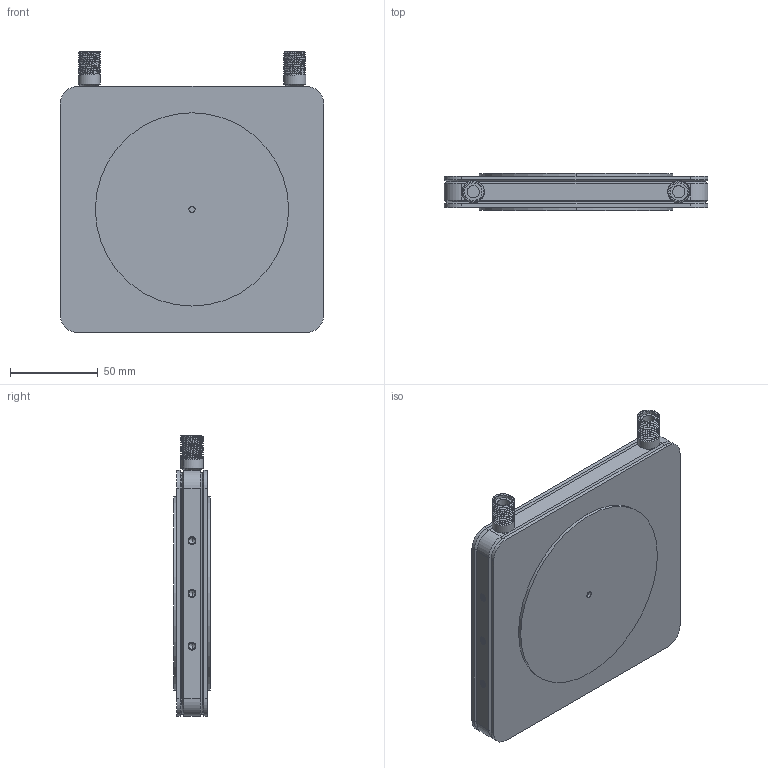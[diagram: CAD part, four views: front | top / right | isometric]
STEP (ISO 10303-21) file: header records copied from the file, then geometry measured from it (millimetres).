
FILE_DESCRIPTION (( 'STEP AP214' ), '1' );
FILE_NAME ('迓鑰110_摎蓲瀇僔蠂罻.STEP', '2025-08-06T15:18:11', ( '' ), ( '' ), 'SwSTEP 2.0', 'SolidWorks 2024', '' );
FILE_SCHEMA (( 'AUTOMOTIVE_DESIGN' ));
Length unit declared in the file: millimetre
Products named in the file (4): кастомный_ниппель; корпус; крышка верхняя; НОЖ_110_без_пластика
Assembly tree (5 placements, depth 2):
  НОЖ_110_без_пластика
    корпус
    кастомный_ниппель  x2
    крышка верхняя  x2
Bounding box: 150 x 21 x 159.85 mm (x, y, z)
Volume: 307946.8 mm3; surface area: 171132.9 mm2
Topology: 5 solids, 5 shells, 1150 faces, 3154 edges, 2028 vertices
Faces by surface type: cylinder 660, plane 398, cone 40, bspline 36, torus 16
Entity records: 42779 total; most frequent: CARTESIAN_POINT 23642, ORIENTED_EDGE 4400, DIRECTION 3634, EDGE_CURVE 2200, VERTEX_POINT 1421, AXIS2_PLACEMENT_3D 1263, VECTOR 1108, LINE 1108
